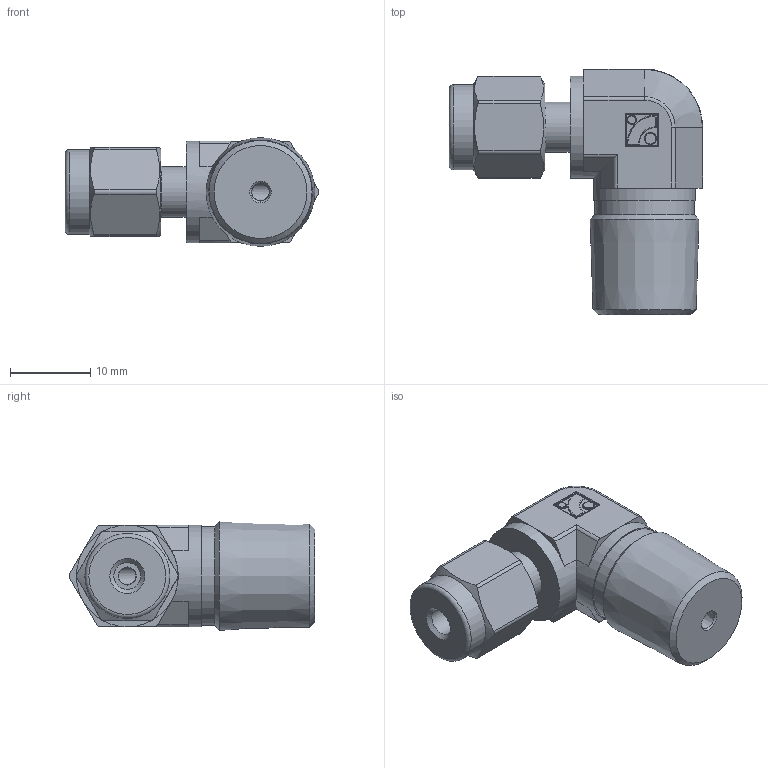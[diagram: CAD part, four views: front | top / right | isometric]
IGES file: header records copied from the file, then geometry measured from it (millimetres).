
Global section: file name: No Iges File Name specified; native system: Autodesk Inventor 2012; preprocessor: AutoDesk Inventor Iges Exporter R2012; author: 硅己绕,,1; organization: 1; date: 20150702.173834; units: millimetre
Bounding box: 31.61 x 30.66 x 13.56 mm (x, y, z)
Volume: 5401.8 mm3; surface area: 2628.1 mm2
Topology: 1 solids, 1 shells, 128 faces, 287 edges, 166 vertices
Faces by surface type: plane 42, cylinder 34, revolution 28, torus 12, cone 8, sphere 4
Full cylindrical faces by diameter (mm): 1.08 x1, 1.44 x1, 6.28 x1, 10.6 x1, 12.372 x1, 12.7 x2
